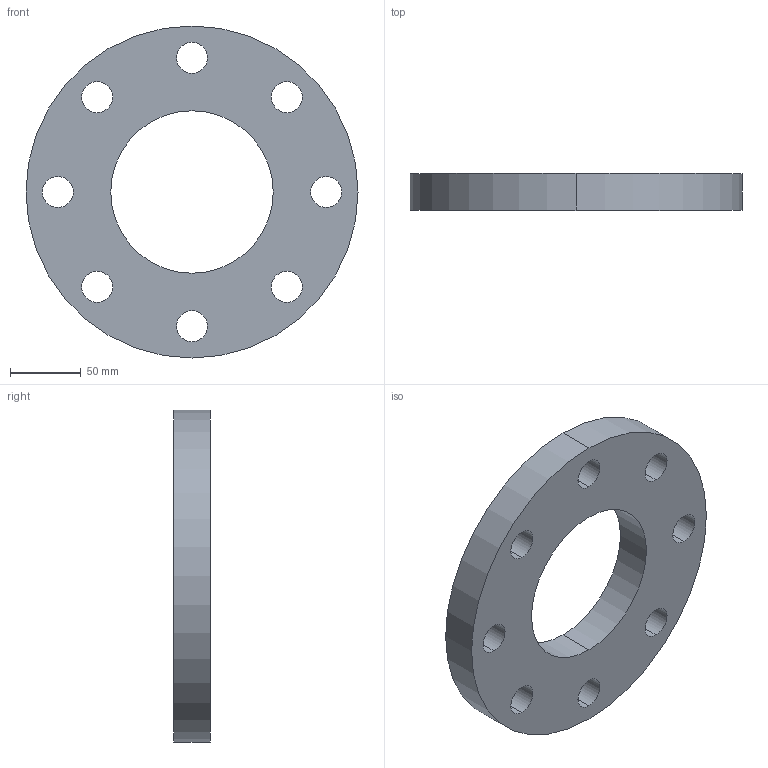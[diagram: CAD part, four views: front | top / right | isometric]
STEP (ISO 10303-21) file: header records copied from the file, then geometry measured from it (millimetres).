
FILE_DESCRIPTION (( 'STEP AP203' ), '1' );
FILE_NAME ('3D_R182-PN40_DN114._176230210.STEP', '2024-07-05T10:29:50', ( '' ), ( '' ), 'SwSTEP 2.0', 'SolidWorks 2024', '' );
FILE_SCHEMA (( 'CONFIG_CONTROL_DESIGN' ));
Length unit declared in the file: millimetre
Products named in the file (1): 3D_R182-PN40_DN114._176230210
Bounding box: 235 x 26 x 235 mm (x, y, z)
Volume: 778587.2 mm3; surface area: 102855.7 mm2
Topology: 1 solids, 1 shells, 22 faces, 60 edges, 40 vertices
Faces by surface type: cylinder 20, plane 2
Entity records: 837 total; most frequent: DIRECTION 146, CARTESIAN_POINT 123, ORIENTED_EDGE 120, AXIS2_PLACEMENT_3D 63, EDGE_CURVE 60, VERTEX_POINT 40, CIRCLE 40, EDGE_LOOP 40
